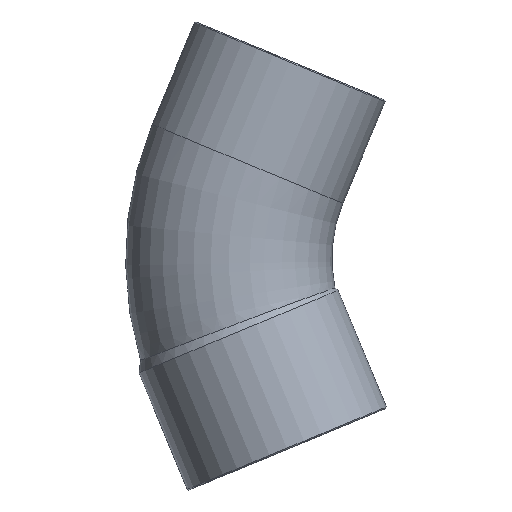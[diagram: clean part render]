
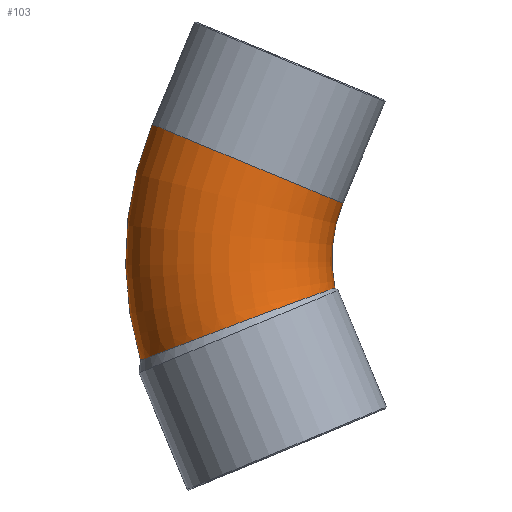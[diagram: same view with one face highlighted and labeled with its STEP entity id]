
A CAD part, front view. The second image highlights one B-rep face of the part: STEP entity #103.
In plain terms, the highlighted toroidal (fillet/blend) face has major radius 64.8 mm and minor radius 27 mm.
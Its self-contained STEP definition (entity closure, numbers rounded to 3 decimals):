
#44=CARTESIAN_POINT('',(4.435,0.,0.));
#45=DIRECTION('',(0.,1.0,0.));
#46=DIRECTION('',(-0.383,0.,0.924));
#47=AXIS2_PLACEMENT_3D('',#44,#45,#46);
#48=TOROIDAL_SURFACE('',#47,64.8,27.0);
#49=CARTESIAN_POINT('',(-83.415,0.,-26.638));
#50=VERTEX_POINT('',#49);
#51=CARTESIAN_POINT('',(-80.377,0.,35.13));
#52=VERTEX_POINT('',#51);
#53=CARTESIAN_POINT('',(4.435,0.,0.));
#54=DIRECTION('',(0.0,1.0,0.0));
#55=DIRECTION('',(0.0,0.0,1.0));
#56=AXIS2_PLACEMENT_3D('',#53,#54,#55);
#57=CIRCLE('',#56,91.8);
#58=EDGE_CURVE('',#50,#52,#57,.T.);
#59=ORIENTED_EDGE('',*,*,#58,.F.);
#60=CARTESIAN_POINT('',(-32.579,0.,-7.667));
#61=VERTEX_POINT('',#60);
#62=CARTESIAN_POINT('',(-83.415,0.,-26.638));
#63=CARTESIAN_POINT('',(-83.415,-1.988,-26.638));
#64=CARTESIAN_POINT('',(-83.21,-3.969,-26.559));
#65=CARTESIAN_POINT('',(-82.396,-7.848,-26.245));
#66=CARTESIAN_POINT('',(-81.79,-9.733,-26.012));
#67=CARTESIAN_POINT('',(-79.59,-14.711,-25.165));
#68=CARTESIAN_POINT('',(-77.616,-17.565,-24.406));
#69=CARTESIAN_POINT('',(-72.747,-22.313,-22.541));
#70=CARTESIAN_POINT('',(-69.895,-24.157,-21.452));
#71=CARTESIAN_POINT('',(-63.675,-26.576,-19.091));
#72=CARTESIAN_POINT('',(-60.365,-27.123,-17.841));
#73=CARTESIAN_POINT('',(-53.726,-26.831,-15.353));
#74=CARTESIAN_POINT('',(-50.458,-25.993,-14.139));
#75=CARTESIAN_POINT('',(-44.417,-23.035,-11.915));
#76=CARTESIAN_POINT('',(-41.696,-20.949,-10.925));
#77=CARTESIAN_POINT('',(-37.175,-15.807,-9.295));
#78=CARTESIAN_POINT('',(-35.409,-12.809,-8.667));
#79=CARTESIAN_POINT('',(-33.141,-6.488,-7.863));
#80=CARTESIAN_POINT('',(-32.579,-3.257,-7.667));
#81=CARTESIAN_POINT('',(-32.579,0.,-7.667));
#82=B_SPLINE_CURVE_WITH_KNOTS('',3,(#62,#63,#64,#65,#66,#67,#68,#69,#70,#71,#72,#73,#74,#75,#76,#77,#78,#79,#80,#81),.UNSPECIFIED.,.F.,.U.,(4,2,2,2,2,2,2,2,2,4),(-17.055,-16.458,-15.862,-14.806,-13.746,-12.683,-11.618,-10.558,-9.507,-8.528),.UNSPECIFIED.);
#83=EDGE_CURVE('',#50,#61,#82,.T.);
#84=ORIENTED_EDGE('',*,*,#83,.T.);
#85=CARTESIAN_POINT('',(-30.488,0.,14.465));
#86=VERTEX_POINT('',#85);
#87=CARTESIAN_POINT('',(4.435,0.,0.));
#88=DIRECTION('',(0.0,-1.0,0.0));
#89=DIRECTION('',(0.0,0.0,1.0));
#90=AXIS2_PLACEMENT_3D('',#87,#88,#89);
#91=CIRCLE('',#90,37.8);
#92=EDGE_CURVE('',#86,#61,#91,.T.);
#93=ORIENTED_EDGE('',*,*,#92,.F.);
#94=CARTESIAN_POINT('',(-55.432,0.,24.798));
#95=DIRECTION('',(-0.383,0.,-0.924));
#96=DIRECTION('',(-0.924,0.,0.383));
#97=AXIS2_PLACEMENT_3D('',#94,#95,#96);
#98=CIRCLE('',#97,27.);
#99=EDGE_CURVE('',#86,#52,#98,.T.);
#100=ORIENTED_EDGE('',*,*,#99,.T.);
#101=EDGE_LOOP('',(#59,#84,#93,#100));
#102=FACE_OUTER_BOUND('',#101,.T.);
#103=ADVANCED_FACE('',(#102),#48,.T.);
